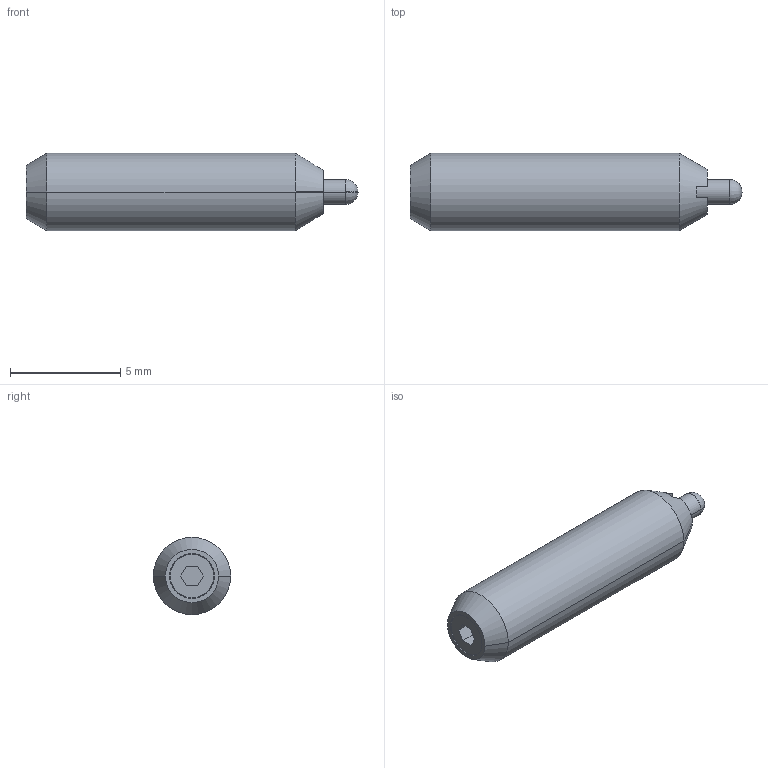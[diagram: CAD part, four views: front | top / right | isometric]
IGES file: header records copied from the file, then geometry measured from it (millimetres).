
Start section:  PTC IGES file: s48-3d.igs
Global section: file name: s48-3d.igs; native system: Pro/ENGINEER by Parametric Technology Corporation; preprocessor: 2002350; author: chant; organization: Unknown; date: 061031.114159; units: inch
Bounding box: 15.06 x 3.51 x 3.51 mm (x, y, z)
Surface area: 177.6 mm2 (no closed solid volume)
Topology: 0 solids, 0 shells, 32 faces, 222 edges, 280 vertices
Faces by surface type: bspline 16, revolution 16
